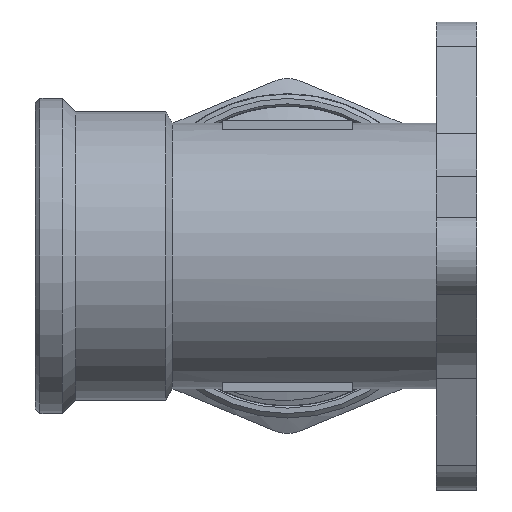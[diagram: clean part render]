
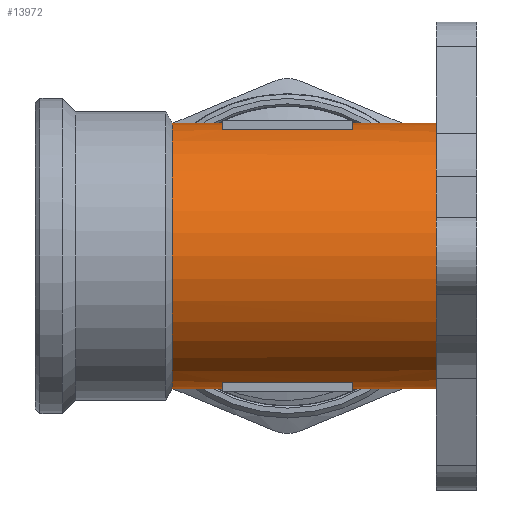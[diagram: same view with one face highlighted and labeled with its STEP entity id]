
A CAD part, left-side view. The second image highlights one B-rep face of the part: STEP entity #13972.
In plain terms, the highlighted cylindrical face has radius 14.75 mm (diameter 29.5 mm), a full revolution.
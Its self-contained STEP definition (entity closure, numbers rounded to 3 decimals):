
#458=FACE_BOUND('',#1630,.T.);
#459=FACE_BOUND('',#1631,.T.);
#834=FACE_OUTER_BOUND('',#1629,.T.);
#1629=EDGE_LOOP('',(#9583,#9584,#9585,#9586,#9587,#9588,#9589,#9590,#9591,
#9592,#9593,#9594,#9595,#9596));
#1630=EDGE_LOOP('',(#9597,#9598,#9599,#9600));
#1631=EDGE_LOOP('',(#9601,#9602,#9603,#9604));
#2457=CIRCLE('',#14775,14.75);
#2458=CIRCLE('',#14776,14.75);
#2467=CIRCLE('',#14792,14.75);
#2476=CIRCLE('',#14815,14.75);
#2477=CIRCLE('',#14816,14.75);
#2478=CIRCLE('',#14817,14.75);
#2479=CIRCLE('',#14818,14.75);
#2480=CIRCLE('',#14819,14.75);
#2481=CIRCLE('',#14820,14.75);
#2815=B_SPLINE_CURVE_WITH_KNOTS('',3,(#19190,#19191,#19192,#19193,#19194,
#19195,#19196,#19197),.UNSPECIFIED.,.F.,.F.,(4,1,1,1,1,4),(0.,0.231,
0.462,0.924,1.386,1.616),
 .UNSPECIFIED.);
#2816=B_SPLINE_CURVE_WITH_KNOTS('',3,(#19199,#19200,#19201,#19202,#19203,
#19204,#19205,#19206,#19207,#19208,#19209,#19210,#19211,#19212,#19213),
 .UNSPECIFIED.,.F.,.F.,(4,1,1,1,1,1,1,1,1,1,1,1,4),(1.616,1.616,
1.847,2.155,2.463,2.771,3.079,
3.387,3.695,4.003,4.31,4.618,
4.849),.UNSPECIFIED.);
#2817=B_SPLINE_CURVE_WITH_KNOTS('',3,(#19214,#19215,#19216,#19217,#19218,
#19219,#19220,#19221,#19222),.UNSPECIFIED.,.F.,.F.,(4,1,1,1,1,1,4),(4.849,
4.926,5.234,5.542,6.004,6.235,
6.466),.UNSPECIFIED.);
#3701=LINE('',#19051,#4701);
#3702=LINE('',#19053,#4702);
#3709=LINE('',#19257,#4709);
#3710=LINE('',#19258,#4710);
#3711=LINE('',#19263,#4711);
#3712=LINE('',#19266,#4712);
#3713=LINE('',#19271,#4713);
#3714=LINE('',#19274,#4714);
#4701=VECTOR('',#15650,10.);
#4702=VECTOR('',#15653,10.);
#4709=VECTOR('',#15680,14.75);
#4710=VECTOR('',#15681,14.75);
#4711=VECTOR('',#15684,10.);
#4712=VECTOR('',#15687,10.);
#4713=VECTOR('',#15690,10.);
#4714=VECTOR('',#15693,10.);
#5712=VERTEX_POINT('',#18956);
#5723=VERTEX_POINT('',#18977);
#5724=VERTEX_POINT('',#18979);
#5733=VERTEX_POINT('',#19011);
#5734=VERTEX_POINT('',#19012);
#5748=VERTEX_POINT('',#19187);
#5749=VERTEX_POINT('',#19189);
#5750=VERTEX_POINT('',#19198);
#5752=VERTEX_POINT('',#19253);
#5753=VERTEX_POINT('',#19254);
#5754=VERTEX_POINT('',#19259);
#5755=VERTEX_POINT('',#19260);
#5756=VERTEX_POINT('',#19262);
#5757=VERTEX_POINT('',#19264);
#5758=VERTEX_POINT('',#19267);
#5759=VERTEX_POINT('',#19268);
#5760=VERTEX_POINT('',#19270);
#5761=VERTEX_POINT('',#19272);
#7240=EDGE_CURVE('',#5724,#5723,#2457,.T.);
#7241=EDGE_CURVE('',#5712,#5724,#2458,.T.);
#7256=EDGE_CURVE('',#5733,#5734,#2467,.T.);
#7276=EDGE_CURVE('',#5723,#5733,#3701,.T.);
#7277=EDGE_CURVE('',#5734,#5712,#3702,.T.);
#7285=EDGE_CURVE('',#5748,#5749,#2815,.T.);
#7286=EDGE_CURVE('',#5749,#5750,#2816,.T.);
#7287=EDGE_CURVE('',#5750,#5748,#2817,.T.);
#7290=EDGE_CURVE('',#5752,#5753,#2476,.T.);
#7291=EDGE_CURVE('',#5753,#5752,#2477,.T.);
#7292=EDGE_CURVE('',#5753,#5750,#3709,.T.);
#7293=EDGE_CURVE('',#5749,#5724,#3710,.T.);
#7294=EDGE_CURVE('',#5754,#5755,#2478,.T.);
#7295=EDGE_CURVE('',#5755,#5756,#3711,.T.);
#7296=EDGE_CURVE('',#5756,#5757,#2479,.T.);
#7297=EDGE_CURVE('',#5757,#5754,#3712,.T.);
#7298=EDGE_CURVE('',#5758,#5759,#2480,.T.);
#7299=EDGE_CURVE('',#5759,#5760,#3713,.T.);
#7300=EDGE_CURVE('',#5760,#5761,#2481,.T.);
#7301=EDGE_CURVE('',#5761,#5758,#3714,.T.);
#9583=ORIENTED_EDGE('',*,*,#7290,.F.);
#9584=ORIENTED_EDGE('',*,*,#7291,.F.);
#9585=ORIENTED_EDGE('',*,*,#7292,.T.);
#9586=ORIENTED_EDGE('',*,*,#7286,.F.);
#9587=ORIENTED_EDGE('',*,*,#7293,.T.);
#9588=ORIENTED_EDGE('',*,*,#7240,.T.);
#9589=ORIENTED_EDGE('',*,*,#7276,.T.);
#9590=ORIENTED_EDGE('',*,*,#7256,.T.);
#9591=ORIENTED_EDGE('',*,*,#7277,.T.);
#9592=ORIENTED_EDGE('',*,*,#7241,.T.);
#9593=ORIENTED_EDGE('',*,*,#7293,.F.);
#9594=ORIENTED_EDGE('',*,*,#7285,.F.);
#9595=ORIENTED_EDGE('',*,*,#7287,.F.);
#9596=ORIENTED_EDGE('',*,*,#7292,.F.);
#9597=ORIENTED_EDGE('',*,*,#7294,.T.);
#9598=ORIENTED_EDGE('',*,*,#7295,.T.);
#9599=ORIENTED_EDGE('',*,*,#7296,.T.);
#9600=ORIENTED_EDGE('',*,*,#7297,.T.);
#9601=ORIENTED_EDGE('',*,*,#7298,.T.);
#9602=ORIENTED_EDGE('',*,*,#7299,.T.);
#9603=ORIENTED_EDGE('',*,*,#7300,.T.);
#9604=ORIENTED_EDGE('',*,*,#7301,.T.);
#13854=CYLINDRICAL_SURFACE('',#14814,14.75);
#13972=ADVANCED_FACE('',(#834,#458,#459),#13854,.T.);
#14775=AXIS2_PLACEMENT_3D('',#18980,#15570,#15571);
#14776=AXIS2_PLACEMENT_3D('',#18981,#15572,#15573);
#14792=AXIS2_PLACEMENT_3D('',#19013,#15610,#15611);
#14814=AXIS2_PLACEMENT_3D('',#19252,#15674,#15675);
#14815=AXIS2_PLACEMENT_3D('',#19255,#15676,#15677);
#14816=AXIS2_PLACEMENT_3D('',#19256,#15678,#15679);
#14817=AXIS2_PLACEMENT_3D('',#19261,#15682,#15683);
#14818=AXIS2_PLACEMENT_3D('',#19265,#15685,#15686);
#14819=AXIS2_PLACEMENT_3D('',#19269,#15688,#15689);
#14820=AXIS2_PLACEMENT_3D('',#19273,#15691,#15692);
#15570=DIRECTION('center_axis',(0.,1.,0.));
#15571=DIRECTION('ref_axis',(1.,0.,0.));
#15572=DIRECTION('center_axis',(0.,1.,0.));
#15573=DIRECTION('ref_axis',(1.,0.,0.));
#15610=DIRECTION('center_axis',(0.,1.,0.));
#15611=DIRECTION('ref_axis',(-1.,0.,0.));
#15650=DIRECTION('',(0.,1.,0.));
#15653=DIRECTION('',(0.,-1.,0.));
#15674=DIRECTION('center_axis',(0.,1.,0.));
#15675=DIRECTION('ref_axis',(-1.,0.,0.));
#15676=DIRECTION('center_axis',(0.,1.,0.));
#15677=DIRECTION('ref_axis',(1.,0.,0.));
#15678=DIRECTION('center_axis',(0.,1.,0.));
#15679=DIRECTION('ref_axis',(1.,0.,0.));
#15680=DIRECTION('',(0.,-1.,0.));
#15681=DIRECTION('',(0.,-1.,0.));
#15682=DIRECTION('center_axis',(0.,-1.,0.));
#15683=DIRECTION('ref_axis',(-1.,0.,0.));
#15684=DIRECTION('',(0.,1.,0.));
#15685=DIRECTION('center_axis',(0.,1.,0.));
#15686=DIRECTION('ref_axis',(-1.,0.,0.));
#15687=DIRECTION('',(0.,-1.,0.));
#15688=DIRECTION('center_axis',(0.,-1.,0.));
#15689=DIRECTION('ref_axis',(-1.,0.,0.));
#15690=DIRECTION('',(0.,1.,0.));
#15691=DIRECTION('center_axis',(0.,1.,0.));
#15692=DIRECTION('ref_axis',(-1.,0.,0.));
#15693=DIRECTION('',(0.,-1.,0.));
#18956=CARTESIAN_POINT('',(12.61,-21.,7.652));
#18977=CARTESIAN_POINT('',(12.61,-21.,-7.652));
#18979=CARTESIAN_POINT('',(14.75,-21.,0.));
#18980=CARTESIAN_POINT('Origin',(0.,-21.,0.));
#18981=CARTESIAN_POINT('Origin',(0.,-21.,0.));
#19011=CARTESIAN_POINT('',(12.61,-16.5,-7.652));
#19012=CARTESIAN_POINT('',(12.61,-16.5,7.652));
#19013=CARTESIAN_POINT('Origin',(0.,-16.5,0.));
#19051=CARTESIAN_POINT('',(12.61,-4.111,-7.652));
#19053=CARTESIAN_POINT('',(12.61,-4.111,7.652));
#19187=CARTESIAN_POINT('',(10.323,0.,10.536));
#19189=CARTESIAN_POINT('',(14.75,-11.25,0.));
#19190=CARTESIAN_POINT('Ctrl Pts',(10.323,0.,
10.536));
#19191=CARTESIAN_POINT('Ctrl Pts',(10.323,-0.877,
10.536));
#19192=CARTESIAN_POINT('Ctrl Pts',(10.527,-2.63,10.342));
#19193=CARTESIAN_POINT('Ctrl Pts',(11.541,-5.793,9.254));
#19194=CARTESIAN_POINT('Ctrl Pts',(13.262,-8.984,6.88));
#19195=CARTESIAN_POINT('Ctrl Pts',(14.54,-10.937,3.293));
#19196=CARTESIAN_POINT('Ctrl Pts',(14.75,-11.25,0.822));
#19197=CARTESIAN_POINT('Ctrl Pts',(14.75,-11.25,0.));
#19198=CARTESIAN_POINT('',(14.75,11.25,0.));
#19199=CARTESIAN_POINT('Ctrl Pts',(14.75,-11.25,0.));
#19200=CARTESIAN_POINT('Ctrl Pts',(14.75,-11.25,0.));
#19201=CARTESIAN_POINT('Ctrl Pts',(14.75,-11.25,-0.823));
#19202=CARTESIAN_POINT('Ctrl Pts',(14.586,-11.007,-2.739));
#19203=CARTESIAN_POINT('Ctrl Pts',(13.801,-9.807,-5.471));
#19204=CARTESIAN_POINT('Ctrl Pts',(12.561,-7.725,-7.855));
#19205=CARTESIAN_POINT('Ctrl Pts',(11.267,-5.047,-9.581));
#19206=CARTESIAN_POINT('Ctrl Pts',(10.284,-1.801,-10.576));
#19207=CARTESIAN_POINT('Ctrl Pts',(10.286,1.8,-10.575));
#19208=CARTESIAN_POINT('Ctrl Pts',(11.266,5.049,-9.58));
#19209=CARTESIAN_POINT('Ctrl Pts',(12.562,7.725,-7.856));
#19210=CARTESIAN_POINT('Ctrl Pts',(13.801,9.807,-5.47));
#19211=CARTESIAN_POINT('Ctrl Pts',(14.588,11.008,-2.741));
#19212=CARTESIAN_POINT('Ctrl Pts',(14.749,11.249,-0.822));
#19213=CARTESIAN_POINT('Ctrl Pts',(14.75,11.25,0.));
#19214=CARTESIAN_POINT('Ctrl Pts',(14.75,11.25,0.));
#19215=CARTESIAN_POINT('Ctrl Pts',(14.75,11.25,0.274));
#19216=CARTESIAN_POINT('Ctrl Pts',(14.714,11.195,1.644));
#19217=CARTESIAN_POINT('Ctrl Pts',(14.295,10.574,4.048));
#19218=CARTESIAN_POINT('Ctrl Pts',(13.031,8.559,7.19));
#19219=CARTESIAN_POINT('Ctrl Pts',(11.541,5.794,9.258));
#19220=CARTESIAN_POINT('Ctrl Pts',(10.528,2.63,10.34));
#19221=CARTESIAN_POINT('Ctrl Pts',(10.323,0.877,10.536));
#19222=CARTESIAN_POINT('Ctrl Pts',(10.323,0.,
10.536));
#19252=CARTESIAN_POINT('Origin',(0.,-4.111,0.));
#19253=CARTESIAN_POINT('',(-14.75,12.778,0.));
#19254=CARTESIAN_POINT('',(14.75,12.778,0.));
#19255=CARTESIAN_POINT('Origin',(0.,12.778,0.));
#19256=CARTESIAN_POINT('Origin',(0.,12.778,0.));
#19257=CARTESIAN_POINT('',(14.75,-4.111,0.));
#19258=CARTESIAN_POINT('',(14.75,-4.111,0.));
#19259=CARTESIAN_POINT('',(-4.5,-7.25,-14.047));
#19260=CARTESIAN_POINT('',(4.5,-7.25,-14.047));
#19261=CARTESIAN_POINT('Origin',(0.,-7.25,0.));
#19262=CARTESIAN_POINT('',(4.5,7.25,-14.047));
#19263=CARTESIAN_POINT('',(4.5,-4.111,-14.047));
#19264=CARTESIAN_POINT('',(-4.5,7.25,-14.047));
#19265=CARTESIAN_POINT('Origin',(0.,7.25,0.));
#19266=CARTESIAN_POINT('',(-4.5,-4.111,-14.047));
#19267=CARTESIAN_POINT('',(4.5,-7.25,14.047));
#19268=CARTESIAN_POINT('',(-4.5,-7.25,14.047));
#19269=CARTESIAN_POINT('Origin',(0.,-7.25,0.));
#19270=CARTESIAN_POINT('',(-4.5,7.25,14.047));
#19271=CARTESIAN_POINT('',(-4.5,-4.111,14.047));
#19272=CARTESIAN_POINT('',(4.5,7.25,14.047));
#19273=CARTESIAN_POINT('Origin',(0.,7.25,0.));
#19274=CARTESIAN_POINT('',(4.5,-4.111,14.047));
